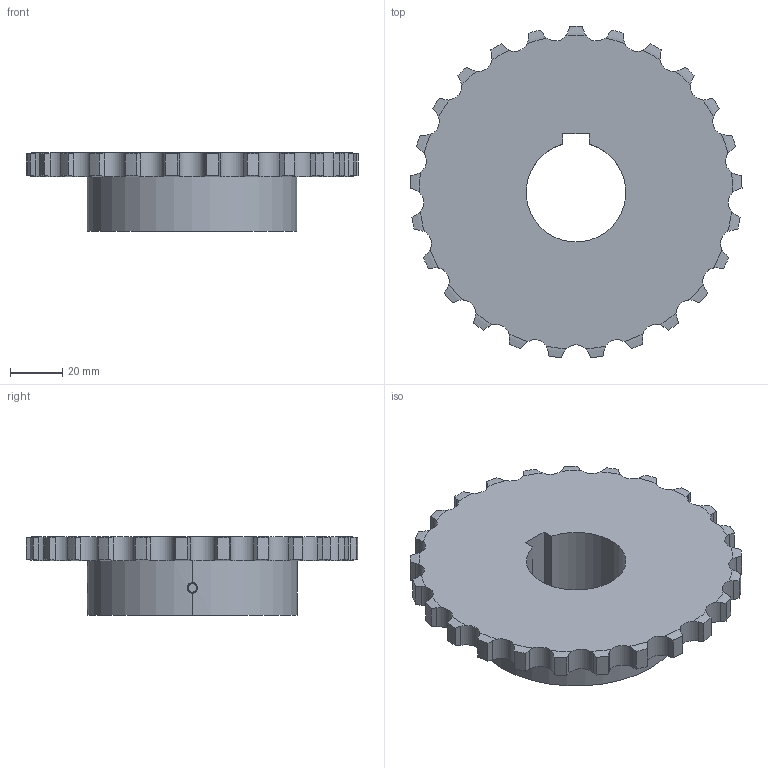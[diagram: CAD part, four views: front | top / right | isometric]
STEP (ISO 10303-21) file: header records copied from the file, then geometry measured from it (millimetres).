
FILE_DESCRIPTION((''),'2;1');
FILE_NAME('510-301-3825_PRT','2021-02-13T',('Brieden'),('Brieden'),'PRO/ENGINEER BY PARAMETRIC TECHNOLOGY CORPORATION, 2010160','PRO/ENGINEER BY PARAMETRIC TECHNOLOGY CORPORATION, 2010160','');
FILE_SCHEMA(('AUTOMOTIVE_DESIGN { 1 0 10303 214 1 1 1 1 }'));
Length unit declared in the file: millimetre
Products named in the file (1): 510-301-3825_PRT
Bounding box: 126.62 x 126.41 x 30 mm (x, y, z)
Volume: 174876.9 mm3; surface area: 34693.8 mm2
Topology: 1 solids, 1 shells, 171 faces, 495 edges, 328 vertices
Faces by surface type: cylinder 107, torus 50, plane 8, bspline 6
Entity records: 8381 total; most frequent: CARTESIAN_POINT 2600, ORIENTED_EDGE 990, DIRECTION 773, PRESENTATION_STYLE_ASSIGNMENT 496, STYLED_ITEM 496, CURVE_STYLE 495, EDGE_CURVE 495, VERTEX_POINT 328
